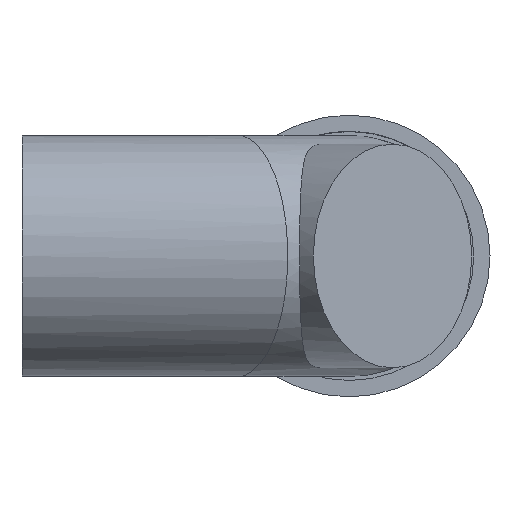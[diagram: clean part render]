
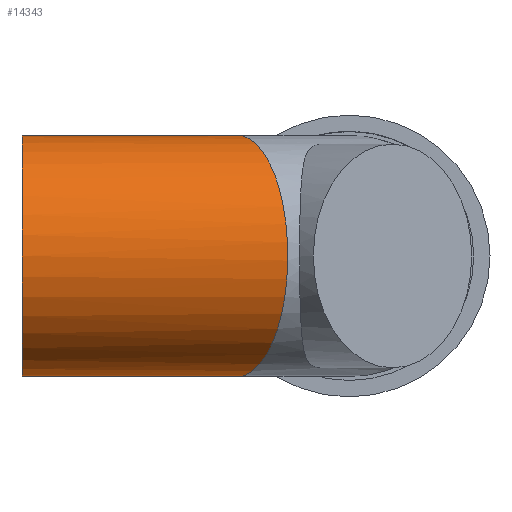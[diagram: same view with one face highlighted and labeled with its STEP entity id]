
A CAD part, front view. The second image highlights one B-rep face of the part: STEP entity #14343.
In plain terms, the highlighted cylindrical face has radius 37.592 mm (diameter 75.184 mm), a full revolution.
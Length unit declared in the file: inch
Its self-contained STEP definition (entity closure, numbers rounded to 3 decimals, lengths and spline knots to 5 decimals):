
#14277=CARTESIAN_POINT('',(-1.36781,0.,-1.48));
#14278=VERTEX_POINT('',#14277);
#14279=CARTESIAN_POINT('',(-1.36781,0.,1.48));
#14280=VERTEX_POINT('',#14279);
#14281=CARTESIAN_POINT('',(-1.36781,0.0,0.0));
#14282=DIRECTION('',(-0.924,-0.383,0.0));
#14283=DIRECTION('',(-0.383,0.924,0.0));
#14284=AXIS2_PLACEMENT_3D('',#14281,#14282,#14283);
#14285=ELLIPSE('',#14284,1.60194,1.48);
#14286=EDGE_CURVE('',#14278,#14280,#14285,.T.);
#14288=CARTESIAN_POINT('',(-1.36781,0.0,0.0));
#14289=DIRECTION('',(-0.924,-0.383,0.0));
#14290=DIRECTION('',(-0.383,0.924,0.0));
#14291=AXIS2_PLACEMENT_3D('',#14288,#14289,#14290);
#14292=ELLIPSE('',#14291,1.60194,1.48);
#14293=EDGE_CURVE('',#14280,#14278,#14292,.T.);
#14323=CARTESIAN_POINT('',(-4.02,0.0,0.0));
#14324=DIRECTION('',(1.0,0.0,0.0));
#14325=DIRECTION('',(0.0,1.0,0.0));
#14326=AXIS2_PLACEMENT_3D('',#14323,#14324,#14325);
#14327=CYLINDRICAL_SURFACE('',#14326,1.48);
#14328=ORIENTED_EDGE('',*,*,#14286,.T.);
#14329=ORIENTED_EDGE('',*,*,#14293,.T.);
#14330=EDGE_LOOP('',(#14328,#14329));
#14331=FACE_OUTER_BOUND('',#14330,.T.);
#14332=CARTESIAN_POINT('',(-4.02,-1.48,0.));
#14333=VERTEX_POINT('',#14332);
#14334=CARTESIAN_POINT('',(-4.02,0.0,0.0));
#14335=DIRECTION('',(1.0,0.0,0.0));
#14336=DIRECTION('',(0.0,1.0,0.0));
#14337=AXIS2_PLACEMENT_3D('',#14334,#14335,#14336);
#14338=CIRCLE('',#14337,1.48);
#14339=EDGE_CURVE('',#14333,#14333,#14338,.T.);
#14340=ORIENTED_EDGE('',*,*,#14339,.T.);
#14341=EDGE_LOOP('',(#14340));
#14342=FACE_BOUND('',#14341,.T.);
#14343=ADVANCED_FACE('',(#14331,#14342),#14327,.T.);
